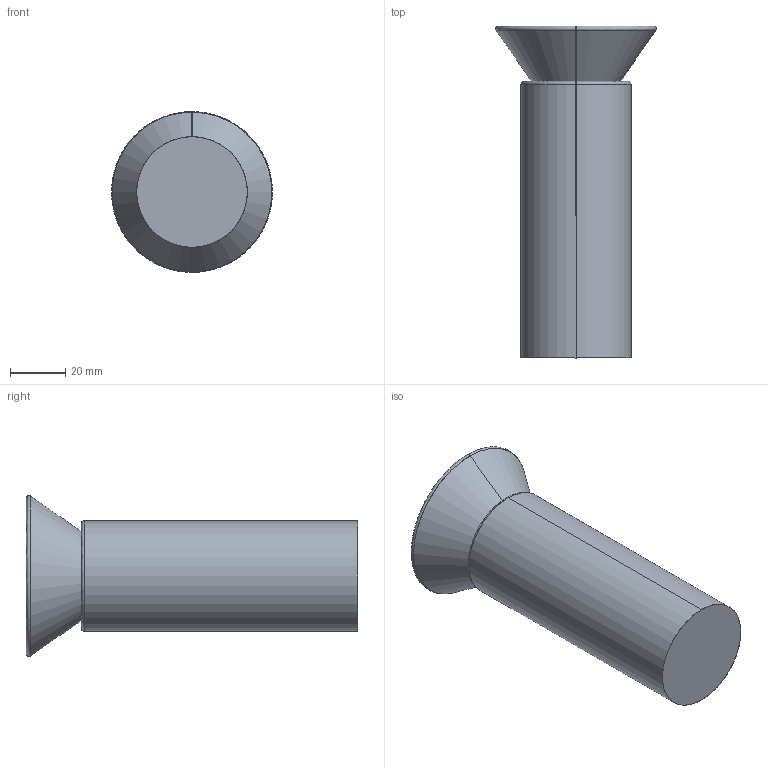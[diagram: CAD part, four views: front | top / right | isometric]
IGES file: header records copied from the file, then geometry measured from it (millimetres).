
Start section: SolidWorks IGES file using analytic representation for surfaces
Global section: file name: C:\Users\adrian\Desktop\AROA\diseño nuevo producto\tecnico\AROA T0336\T0336.IGS; native system: SolidWorks 2023; preprocessor: SolidWorks 2023; author: adrian; date: 260828.112434; units: millimetre
Bounding box: 58.15 x 120 x 58.15 mm (x, y, z)
Surface area: 23110.9 mm2 (no closed solid volume)
Topology: 0 solids, 0 shells, 16 faces, 304 edges, 304 vertices
Faces by surface type: bspline 10, revolution 6
